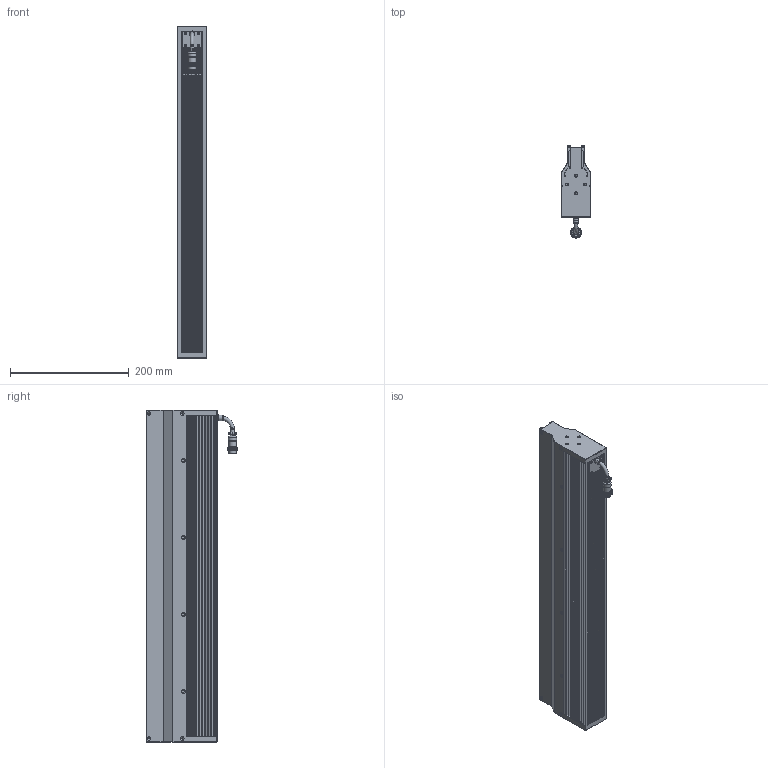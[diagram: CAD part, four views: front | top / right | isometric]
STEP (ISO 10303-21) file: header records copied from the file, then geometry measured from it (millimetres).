
FILE_DESCRIPTION (( 'STEP AP203' ), '1' );
FILE_NAME ('OPT-LSNL560-R-V1.1尨砩芞.STEP', '2025-02-18T02:40:46', ( '' ), ( '' ), 'SwSTEP 2.0', 'SolidWorks 2016', '' );
FILE_SCHEMA (( 'CONFIG_CONTROL_DESIGN' ));
Products named in the file (1): OPT-LSNL560-R-V1.1尨砩芞
Bounding box: 50.01 x 155.15 x 560 mm (x, y, z)
Volume: 2025537.8 mm3; surface area: 668680.8 mm2
Topology: 5 solids, 10 shells, 3606 faces, 8212 edges, 4636 vertices
Faces by surface type: bspline 2059, cylinder 757, plane 743, cone 39, torus 8
Full cylindrical faces by diameter (mm): 0.95 x6, 1.1 x2, 1.4 x2, 2 x4, 2.5 x10, 3 x12, 3.4 x16, 3.5 x4, 5 x8, 6.4 x3, 7.5 x1, 8.6 x1, 9.3 x1, 9.8 x1, 10 x1, 13.2 x1, 14 x1, 16.1 x1
Entity records: 125924 total; most frequent: CARTESIAN_POINT 64568, ORIENTED_EDGE 16042, EDGE_CURVE 8021, DIRECTION 5958, B_SPLINE_CURVE_WITH_KNOTS 5578, VERTEX_POINT 4571, EDGE_LOOP 3798, FACE_OUTER_BOUND 3689
